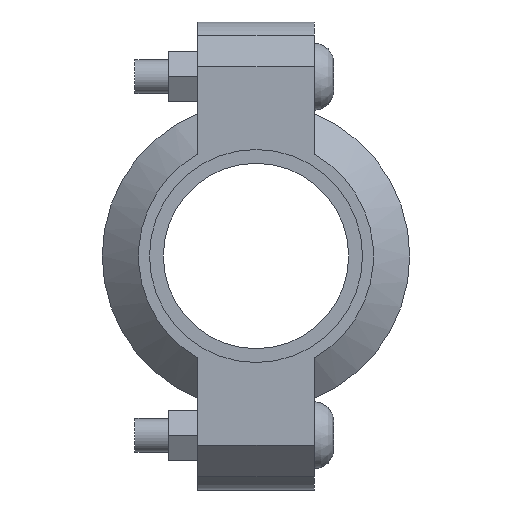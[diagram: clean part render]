
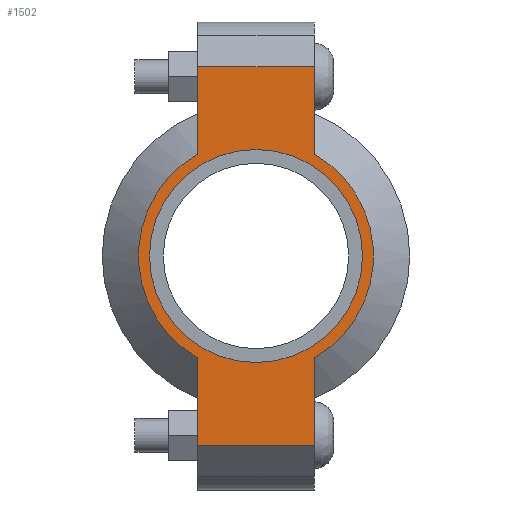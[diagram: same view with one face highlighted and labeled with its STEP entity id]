
A CAD part, left-side view. The second image highlights one B-rep face of the part: STEP entity #1502.
In plain terms, the highlighted planar face has unit normal (-1, 0, 0) as drawn and (0, 0, 1) by its records, which use the part's own axes.
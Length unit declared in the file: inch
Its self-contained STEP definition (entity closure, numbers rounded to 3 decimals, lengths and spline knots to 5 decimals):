
#126=LINE('',#2621,#219);
#134=LINE('',#2657,#227);
#141=LINE('',#2678,#234);
#150=LINE('',#2710,#243);
#151=LINE('',#2714,#244);
#152=LINE('',#2716,#245);
#219=VECTOR('',#2145,0.3937);
#227=VECTOR('',#2161,0.3937);
#234=VECTOR('',#2180,0.3937);
#243=VECTOR('',#2205,0.3937);
#244=VECTOR('',#2210,0.3937);
#245=VECTOR('',#2211,0.3937);
#301=FACE_BOUND('',#479,.T.);
#373=FACE_OUTER_BOUND('',#478,.T.);
#478=EDGE_LOOP('',(#1243,#1244,#1245,#1246,#1247,#1248,#1249,#1250));
#479=EDGE_LOOP('',(#1251));
#551=CIRCLE('',#1721,1.1875);
#577=CIRCLE('',#1780,1.31);
#578=CIRCLE('',#1781,1.31);
#643=VERTEX_POINT('',#2437);
#686=VERTEX_POINT('',#2618);
#687=VERTEX_POINT('',#2620);
#698=VERTEX_POINT('',#2652);
#699=VERTEX_POINT('',#2656);
#706=VERTEX_POINT('',#2675);
#707=VERTEX_POINT('',#2677);
#717=VERTEX_POINT('',#2713);
#718=VERTEX_POINT('',#2715);
#799=EDGE_CURVE('',#643,#643,#551,.T.);
#860=EDGE_CURVE('',#687,#686,#126,.T.);
#874=EDGE_CURVE('',#699,#698,#134,.T.);
#884=EDGE_CURVE('',#707,#706,#141,.T.);
#899=EDGE_CURVE('',#699,#686,#150,.T.);
#900=EDGE_CURVE('',#698,#707,#577,.T.);
#901=EDGE_CURVE('',#717,#706,#151,.T.);
#902=EDGE_CURVE('',#717,#718,#152,.T.);
#903=EDGE_CURVE('',#718,#687,#578,.T.);
#1243=ORIENTED_EDGE('',*,*,#899,.F.);
#1244=ORIENTED_EDGE('',*,*,#874,.T.);
#1245=ORIENTED_EDGE('',*,*,#900,.T.);
#1246=ORIENTED_EDGE('',*,*,#884,.T.);
#1247=ORIENTED_EDGE('',*,*,#901,.F.);
#1248=ORIENTED_EDGE('',*,*,#902,.T.);
#1249=ORIENTED_EDGE('',*,*,#903,.T.);
#1250=ORIENTED_EDGE('',*,*,#860,.T.);
#1251=ORIENTED_EDGE('',*,*,#799,.T.);
#1344=PLANE('',#1779);
#1502=ADVANCED_FACE('',(#373,#301),#1344,.T.);
#1721=AXIS2_PLACEMENT_3D('',#2439,#2021,#2022);
#1779=AXIS2_PLACEMENT_3D('',#2711,#2206,#2207);
#1780=AXIS2_PLACEMENT_3D('',#2712,#2208,#2209);
#1781=AXIS2_PLACEMENT_3D('',#2717,#2212,#2213);
#2021=DIRECTION('center_axis',(0.,0.,-1.));
#2022=DIRECTION('ref_axis',(-1.,0.,0.));
#2145=DIRECTION('',(-1.,0.,0.));
#2161=DIRECTION('',(1.,0.,0.));
#2180=DIRECTION('',(1.,0.,0.));
#2205=DIRECTION('',(0.,1.,0.));
#2206=DIRECTION('center_axis',(0.,0.,1.));
#2207=DIRECTION('ref_axis',(1.,0.,0.));
#2208=DIRECTION('center_axis',(0.,0.,1.));
#2209=DIRECTION('ref_axis',(-1.,0.,0.));
#2210=DIRECTION('',(0.,-1.,0.));
#2211=DIRECTION('',(-1.,0.,0.));
#2212=DIRECTION('center_axis',(0.,0.,1.));
#2213=DIRECTION('ref_axis',(-1.,0.,0.));
#2437=CARTESIAN_POINT('',(1.1875,0.,0.94));
#2439=CARTESIAN_POINT('Origin',(0.,0.,0.94));
#2618=CARTESIAN_POINT('',(-2.11,0.65,0.94));
#2620=CARTESIAN_POINT('',(-1.13737,0.65,0.94));
#2621=CARTESIAN_POINT('',(-2.61,0.65,0.94));
#2652=CARTESIAN_POINT('',(-1.13737,-0.65,0.94));
#2656=CARTESIAN_POINT('',(-2.11,-0.65,0.94));
#2657=CARTESIAN_POINT('',(2.61,-0.65,0.94));
#2675=CARTESIAN_POINT('',(2.11,-0.65,0.94));
#2677=CARTESIAN_POINT('',(1.13737,-0.65,0.94));
#2678=CARTESIAN_POINT('',(2.61,-0.65,0.94));
#2710=CARTESIAN_POINT('',(-2.11,0.325,0.94));
#2711=CARTESIAN_POINT('Origin',(0.,0.,0.94));
#2712=CARTESIAN_POINT('Origin',(0.,0.,0.94));
#2713=CARTESIAN_POINT('',(2.11,0.65,0.94));
#2714=CARTESIAN_POINT('',(2.11,-0.325,0.94));
#2715=CARTESIAN_POINT('',(1.13737,0.65,0.94));
#2716=CARTESIAN_POINT('',(-2.61,0.65,0.94));
#2717=CARTESIAN_POINT('Origin',(0.,0.,0.94));
